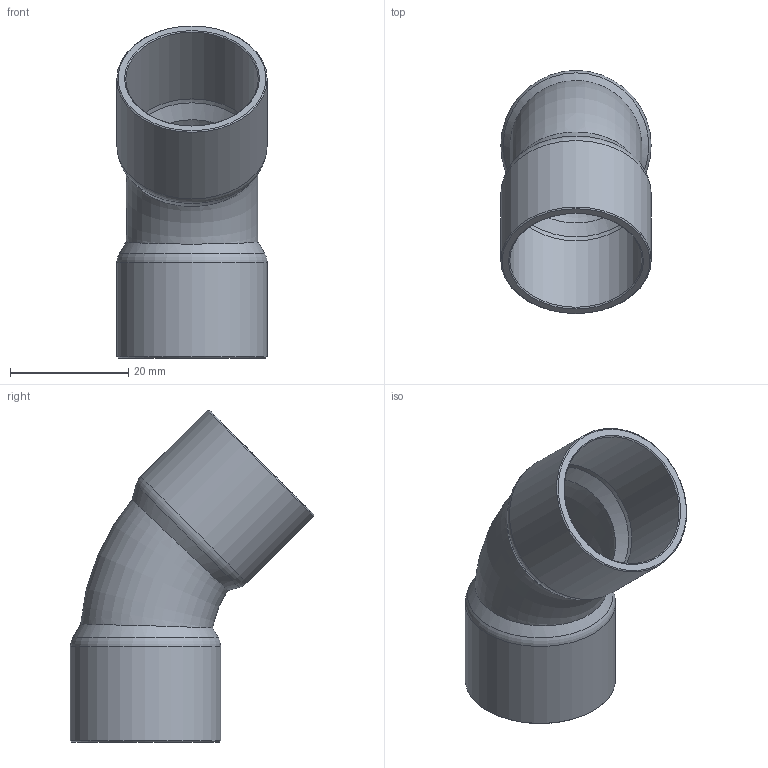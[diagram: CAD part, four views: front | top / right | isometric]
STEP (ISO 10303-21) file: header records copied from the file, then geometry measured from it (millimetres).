
FILE_DESCRIPTION((''),'2;1');
FILE_NAME('G:\SANHA-Ternat\Technik\Management\Bouwmaten + markeringen\z-maattekeningen 3D\29000s\2904178_3d.stp','2017-07-26T14:42:01',('vdvijverd'),(''),'Autodesk Inventor 2009','Autodesk Inventor 2009','');
FILE_SCHEMA(('AUTOMOTIVE_DESIGN { 1 0 10303 214 1 1 1 1 }'));
Length unit declared in the file: millimetre
Products named in the file (1): 2904178_3d
Bounding box: 25.38 x 41.08 x 56.05 mm (x, y, z)
Volume: 5900.9 mm3; surface area: 8065.1 mm2
Topology: 1 solids, 1 shells, 20 faces, 38 edges, 20 vertices
Faces by surface type: bspline 7, cone 6, torus 4, cylinder 2, plane 1
Full cylindrical faces by diameter (mm): 22.375 x1, 25.375 x1
Entity records: 732 total; most frequent: CARTESIAN_POINT 398, DIRECTION 60, ORIENTED_EDGE 40, EDGE_LOOP 40, AXIS2_PLACEMENT_3D 30, VERTEX_POINT 20, EDGE_CURVE 20, FACE_OUTER_BOUND 20
